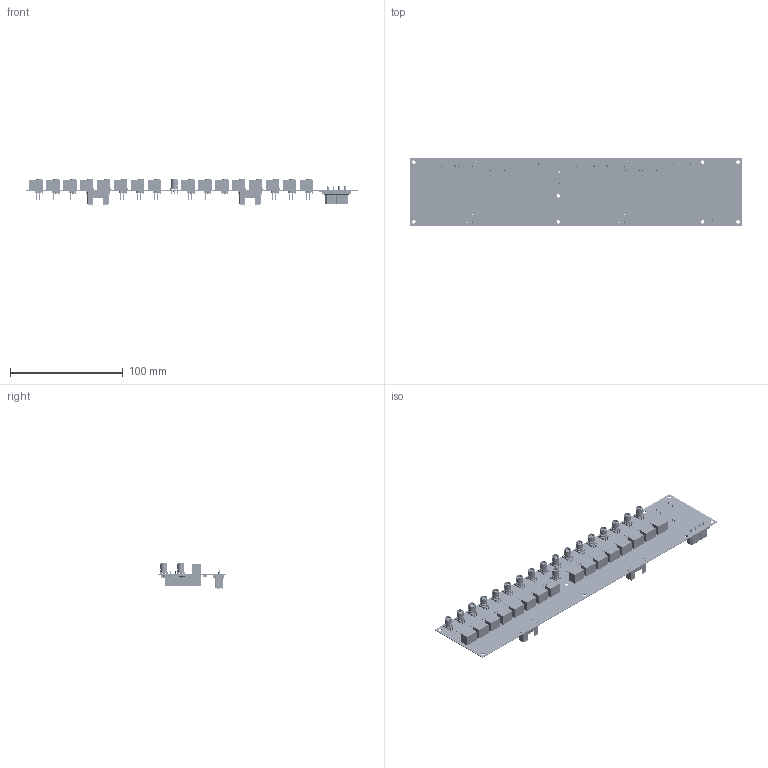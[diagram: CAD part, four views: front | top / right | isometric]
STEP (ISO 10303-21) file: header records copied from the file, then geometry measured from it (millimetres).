
FILE_DESCRIPTION(('Open CASCADE Model'),'2;1');
FILE_NAME('Open CASCADE Shape Model','2026-07-01T12:46:49',('Author'),( 'Open CASCADE'),'Open CASCADE STEP processor 7.5','Open CASCADE 7.5' ,'Unknown');
FILE_SCHEMA(('AUTOMOTIVE_DESIGN { 1 0 10303 214 1 1 1 1 }'));
Length unit declared in the file: millimetre
Products named in the file (517): PCB; Board; Open CASCADE STEP translator 7.5 1.1.1; R_JUMP; User Library-RES_0805L; User Library-RES_0805L_RES_0805_Lead_1; User Library-RES_0805L_RES_0805_Body_1; TRG_IN; SMA-J-P-H-ST-TH1; CLK_IN; TRG_OUT; SW3dPS-UFL-R-SMD; SW3dPS-UFL-R-SMD_Part_525; SW3dPS-UFL-R-SMD_Part_540; SW3dPS-UFL-R-SMD_Part_739; SW3dPS-UFL-R-SMD_Part_555; SW3dPS-UFL-R-SMD_Part_578; SW3dPS-UFL-R-SMD_Part_562; U1; JTE06(D); R44; SW3dPS-0402 SMD Resistor; R43; R42; R41; R40; R39; R38; R37; R32; R31; R30; R29; R28; R27; R26; R25; R24; R23; R22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
Assembly tree (974 placements, depth 4):
  PCB
    Board
      Open CASCADE STEP translator 7.5 1.1.1
    R_JUMP
      User Library-RES_0805L
        User Library-RES_0805L_RES_0805_Lead_1  x2
        User Library-RES_0805L_RES_0805_Body_1
    TRG_IN
      SMA-J-P-H-ST-TH1
        SMA-J-P-H-ST-TH1
    CLK_IN
      SMA-J-P-H-ST-TH1
        SMA-J-P-H-ST-TH1
    TRG_OUT
      SW3dPS-UFL-R-SMD
        SW3dPS-UFL-R-SMD_Part_525
        SW3dPS-UFL-R-SMD_Part_540
        SW3dPS-UFL-R-SMD_Part_739
        SW3dPS-UFL-R-SMD_Part_555
        SW3dPS-UFL-R-SMD_Part_578
        SW3dPS-UFL-R-SMD_Part_562
    U1
      JTE06(D)
    R44
      SW3dPS-0402 SMD Resistor
    R43
      SW3dPS-0402 SMD Resistor
    R42
      SW3dPS-0402 SMD Resistor
    R41
      SW3dPS-0402 SMD Resistor
    R40
      SW3dPS-0402 SMD Resistor
    R39
      SW3dPS-0402 SMD Resistor
    R38
      SW3dPS-0402 SMD Resistor
    R37
      SW3dPS-0402 SMD Resistor
    R32
      SW3dPS-0402 SMD Resistor
    R31
      SW3dPS-0402 SMD Resistor
    R30
      SW3dPS-0402 SMD Resistor
    R29
      SW3dPS-0402 SMD Resistor
    R28
      SW3dPS-0402 SMD Resistor
    R27
      SW3dPS-0402 SMD Resistor
    R26
      SW3dPS-0402 SMD Resistor
    R25
      SW3dPS-0402 SMD Resistor
    R24
      SW3dPS-0402 SMD Resistor
    R23
      SW3dPS-0402 SMD Resistor
    R22
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Bounding box: 295 x 60 x 22.69 mm (x, y, z)
Volume: 38577.7 mm3; surface area: 65960.4 mm2
Topology: 520 solids, 520 shells, 34561 faces, 87740 edges, 53863 vertices
Faces by surface type: plane 18989, cylinder 9031, bspline 4599, sphere 1880, cone 60, extrusion 2
Full cylindrical faces by diameter (mm): 0.155 x1, 0.5 x24, 0.55 x8, 0.8 x2, 0.83 x8, 0.9 x5, 0.95 x4, 1.02 x32, 1.27 x36, 1.4 x50, 1.6 x90, 1.78 x4, 3.1 x8, 4.1 x36, 4.25 x2, 4.63 x18, 5.35 x36, 6.3 x18, 6.33 x18
Entity records: 152832 total; most frequent: CARTESIAN_POINT 30363, DIRECTION 23063, ORIENTED_EDGE 22808, EDGE_CURVE 11404, VECTOR 8215, LINE 8213, VERTEX_POINT 7517, AXIS2_PLACEMENT_3D 7424
